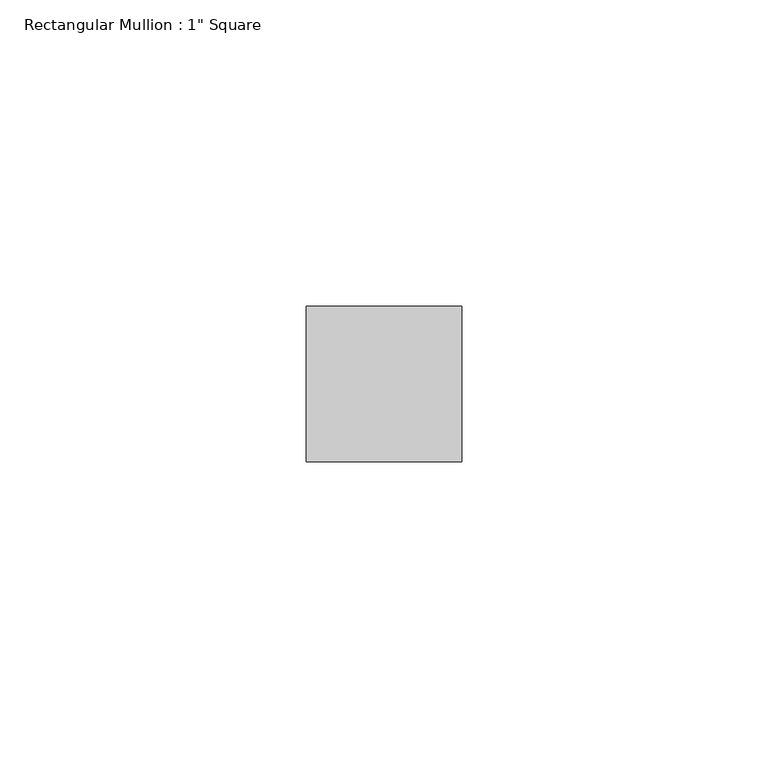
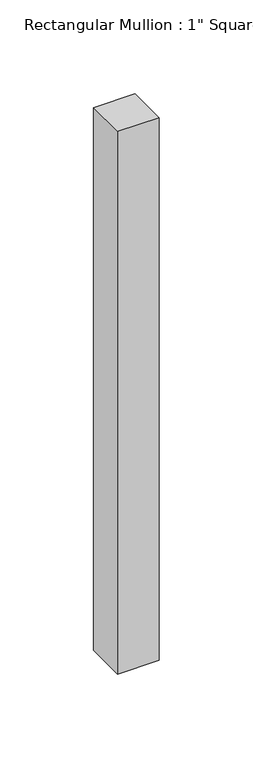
"""IFC4 building model written with IfcOpenShell, lengths in millimetres: member geometry."""

from ifc_helpers import new_model, si_unit, frame, origin, place, context, project, spatial, polyline, outline, extrude, source, transform, mapped, element, save


def member_dad45058(model_context):
    return source(origin(), model_context, "Body", "SweptSolid", [
        extrude(outline(polyline([(0.0, 12.7), (0.0, -12.7), (-25.4, -12.7), (-25.4, 12.7), (0.0, 12.7)])), frame((0.0, 0.0, -352.6968426), z_axis=(0.0, 0.0, 1.0), x_axis=(1.0, 0.0, 0.0)), (0.0, 0.0, 1.0), 352.6968426),
    ])


if __name__ == "__main__":
    model = new_model("IFC4")
    model_context = context("Model", 3, world=origin())
    ifc_project = project(units=[si_unit("LENGTHUNIT", "METRE", prefix="MILLI")], contexts=[model_context])
    site = spatial("IfcSite", under=ifc_project)
    building = spatial("IfcBuilding", under=site)
    placement = place(None, origin())
    member_shape = member_dad45058(model_context)
    element("IfcMember", 1, ObjectType="Rectangular Mullion : 1\" Square", at=placement, inside=building, context=model_context, shape_type="MappedRepresentation", body=[
        mapped(member_shape, transform((0.0, 0.0, 0.0), x_axis=(1.0, 0.0, 0.0), y_axis=(0.0, 1.0, 0.0), z_axis=(0.0, 0.0, 1.0))),
    ])
    save(model, "model.ifc")
